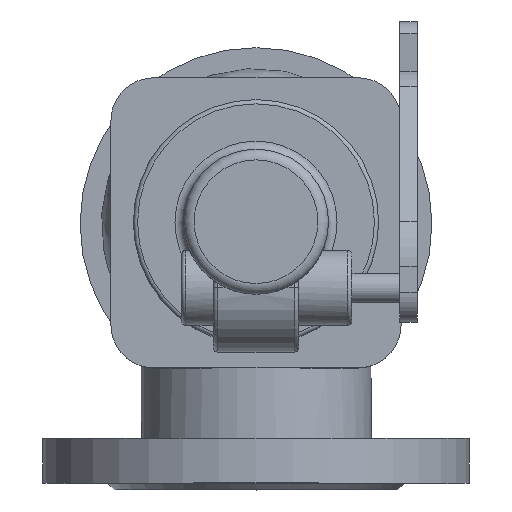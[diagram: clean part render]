
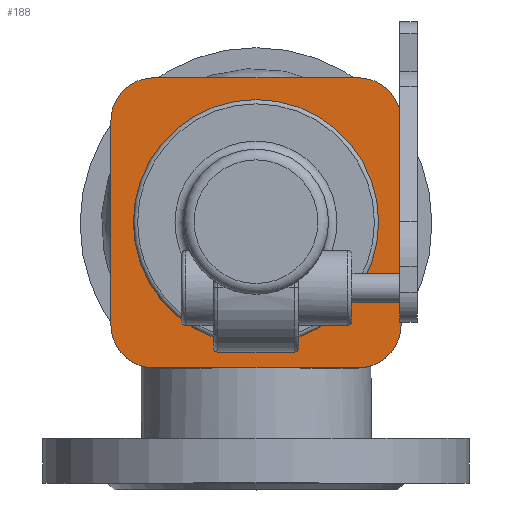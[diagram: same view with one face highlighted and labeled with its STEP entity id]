
A CAD part, top view. The second image highlights one B-rep face of the part: STEP entity #188.
In plain terms, the highlighted planar face has unit normal (0, 0, 1).
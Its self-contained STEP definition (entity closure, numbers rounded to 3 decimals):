
#188=ADVANCED_FACE('',(#1363,#1365),#1367,.T.);
#1363=FACE_BOUND('',#1364,.T.);
#1364=EDGE_LOOP('',(#2416,#2417,#2418,#2419,#2420,#2421,#2422,#2423));
#1365=FACE_BOUND('',#1366,.T.);
#1366=EDGE_LOOP('',(#2424));
#1367=PLANE('',#1368);
#1368=AXIS2_PLACEMENT_3D('',#1369,#1370,#1371);
#1369=CARTESIAN_POINT('',(0.,0.,230.));
#1370=DIRECTION('',(0.,0.,1.));
#1371=DIRECTION('',(0.,1.,0.));
#2416=ORIENTED_EDGE('',*,*,#3028,.T.);
#2417=ORIENTED_EDGE('',*,*,#3029,.T.);
#2418=ORIENTED_EDGE('',*,*,#3030,.T.);
#2419=ORIENTED_EDGE('',*,*,#3031,.T.);
#2420=ORIENTED_EDGE('',*,*,#3032,.T.);
#2421=ORIENTED_EDGE('',*,*,#3033,.T.);
#2422=ORIENTED_EDGE('',*,*,#3034,.T.);
#2423=ORIENTED_EDGE('',*,*,#3035,.T.);
#2424=ORIENTED_EDGE('',*,*,#2985,.T.);
#2985=EDGE_CURVE('',#3307,#3307,#3308,.T.);
#3028=EDGE_CURVE('',#3379,#3380,#3381,.T.);
#3029=EDGE_CURVE('',#3380,#3382,#3383,.T.);
#3030=EDGE_CURVE('',#3382,#3384,#3385,.T.);
#3031=EDGE_CURVE('',#3384,#3386,#3387,.T.);
#3032=EDGE_CURVE('',#3386,#3388,#3389,.T.);
#3033=EDGE_CURVE('',#3388,#3390,#3391,.T.);
#3034=EDGE_CURVE('',#3390,#3392,#3393,.T.);
#3035=EDGE_CURVE('',#3392,#3379,#3394,.T.);
#3307=VERTEX_POINT('',#3877);
#3308=CIRCLE('',#3878,40.);
#3379=VERTEX_POINT('',#4500);
#3380=VERTEX_POINT('',#4501);
#3381=CIRCLE('',#4502,20.);
#3382=VERTEX_POINT('',#4506);
#3383=LINE('',#4507,#4508);
#3384=VERTEX_POINT('',#4510);
#3385=CIRCLE('',#4511,20.);
#3386=VERTEX_POINT('',#4515);
#3387=LINE('',#4516,#4517);
#3388=VERTEX_POINT('',#4519);
#3389=CIRCLE('',#4520,20.);
#3390=VERTEX_POINT('',#4524);
#3391=LINE('',#4525,#4526);
#3392=VERTEX_POINT('',#4528);
#3393=CIRCLE('',#4529,20.);
#3394=LINE('',#4533,#4534);
#3877=CARTESIAN_POINT('',(0.,40.,230.));
#3878=AXIS2_PLACEMENT_3D('',#3879,#3880,#3881);
#3879=CARTESIAN_POINT('',(0.,0.,230.));
#3880=DIRECTION('',(-0.,-0.,-1.));
#3881=DIRECTION('',(0.,1.,0.));
#4500=CARTESIAN_POINT('',(-68.,-48.,230.));
#4501=CARTESIAN_POINT('',(-48.,-68.,230.));
#4502=AXIS2_PLACEMENT_3D('',#4503,#4504,#4505);
#4503=CARTESIAN_POINT('',(-48.,-48.,230.));
#4504=DIRECTION('',(0.,-0.,1.));
#4505=DIRECTION('',(-1.,0.,0.));
#4506=CARTESIAN_POINT('',(48.,-68.,230.));
#4507=CARTESIAN_POINT('',(-48.,-68.,230.));
#4508=VECTOR('',#4509,1.);
#4509=DIRECTION('',(1.,0.,0.));
#4510=CARTESIAN_POINT('',(68.,-48.,230.));
#4511=AXIS2_PLACEMENT_3D('',#4512,#4513,#4514);
#4512=CARTESIAN_POINT('',(48.,-48.,230.));
#4513=DIRECTION('',(0.,-0.,1.));
#4514=DIRECTION('',(0.,-1.,0.));
#4515=CARTESIAN_POINT('',(68.,48.,230.));
#4516=CARTESIAN_POINT('',(68.,-48.,230.));
#4517=VECTOR('',#4518,1.);
#4518=DIRECTION('',(0.,1.,0.));
#4519=CARTESIAN_POINT('',(48.,68.,230.));
#4520=AXIS2_PLACEMENT_3D('',#4521,#4522,#4523);
#4521=CARTESIAN_POINT('',(48.,48.,230.));
#4522=DIRECTION('',(0.,0.,1.));
#4523=DIRECTION('',(1.,0.,0.));
#4524=CARTESIAN_POINT('',(-48.,68.,230.));
#4525=CARTESIAN_POINT('',(48.,68.,230.));
#4526=VECTOR('',#4527,1.);
#4527=DIRECTION('',(-1.,0.,0.));
#4528=CARTESIAN_POINT('',(-68.,48.,230.));
#4529=AXIS2_PLACEMENT_3D('',#4530,#4531,#4532);
#4530=CARTESIAN_POINT('',(-48.,48.,230.));
#4531=DIRECTION('',(0.,-0.,1.));
#4532=DIRECTION('',(0.,1.,0.));
#4533=CARTESIAN_POINT('',(-68.,48.,230.));
#4534=VECTOR('',#4535,1.);
#4535=DIRECTION('',(0.,-1.,0.));
